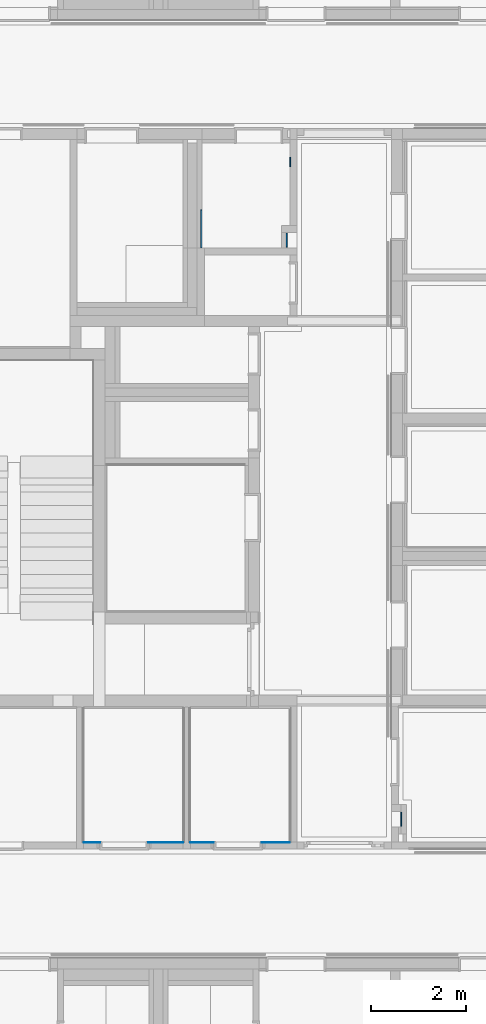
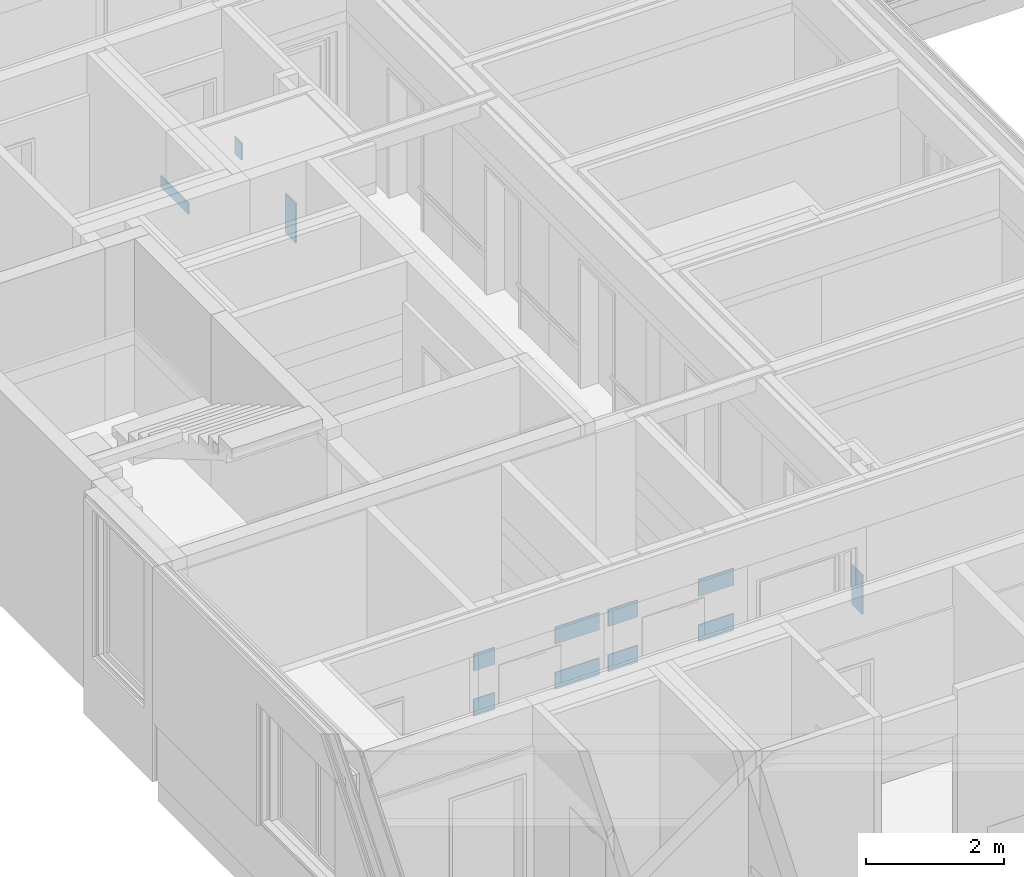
# One storey, part 152 of 207: 12 walls.
"""IFC4 building model written with IfcOpenShell, lengths in metres."""

from ifc_helpers import new_model, entity, si_unit, converted_unit, derived_unit, frame, origin, place, context, subcontext, project, spatial, faceted_brep, element, save


model = new_model("IFC4")

# Units and contexts
model_context = context("Model", 3, precision=1e-05, world=origin())
body_context = subcontext(model_context, "Body", "Model", "MODEL_VIEW")
ifc_project = project(units=[si_unit("LENGTHUNIT", "METRE"), si_unit("AREAUNIT", "SQUARE_METRE"), si_unit("VOLUMEUNIT", "CUBIC_METRE"), si_unit("MASSUNIT", "GRAM", prefix="KILO"), converted_unit("PLANEANGLEUNIT", "DEGREE", entity("IfcPlaneAngleMeasure", 0.0174532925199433), si_unit("PLANEANGLEUNIT", "RADIAN"), dimensions=[0, 0, 0, 0, 0, 0, 0]), derived_unit("THERMALTRANSMITTANCEUNIT", [(si_unit("POWERUNIT", "WATT"), 1), (si_unit("THERMODYNAMICTEMPERATUREUNIT", "KELVIN"), -1), (si_unit("LENGTHUNIT", "METRE"), -2)]), derived_unit("VOLUMETRICFLOWRATEUNIT", [(si_unit("LENGTHUNIT", "METRE"), 3), (converted_unit("TIMEUNIT", "hour", entity("IfcTimeMeasure", 3600.0), si_unit("TIMEUNIT", "SECOND"), dimensions=[0, 0, 1, 0, 0, 0, 0]), -1), (si_unit("LENGTHUNIT", "METRE"), -1)])], contexts=[model_context])

# Site, building, storey
site_placement = place(None, origin())
site = spatial("IfcSite", under=ifc_project, at=site_placement, Name="Psychiatrie Neubau Wunstorf", CompositionType="ELEMENT")
building_placement = place(site_placement, origin())
building = spatial("IfcBuilding", under=site, at=building_placement, Name="Neubau H2 Stationsgebäude", CompositionType="ELEMENT")
storey_placement = place(building_placement, frame((0.0, 0.0, -0.2)))
storey = spatial("IfcBuildingStorey", under=building, at=storey_placement, Name="H2 Ebene 0", CompositionType="ELEMENT", Elevation=-0.2)

# Walls
wall_1_placement = place(storey_placement, frame((5.89551612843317, 19.3150163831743, 2.0)))
element("IfcWall", 1, at=wall_1_placement, inside=storey, Name="WV 1.1", context=body_context, shape_type="Brep", body=[
    faceted_brep([(0.025, 0.8, 0.0), (0.0, 0.8, 0.0), (0.0, 0.0, 0.0), (0.025, 0.0, 0.0), (0.0, 0.8, 0.2), (0.025, 0.8, 0.2), (0.025, 0.0, 0.2), (0.0, 0.0, 0.2)], [[[0, 1, 2, 3]], [[4, 5, 6, 7]], [[1, 0, 5, 4]], [[2, 1, 4, 7]], [[3, 2, 7, 6]], [[0, 3, 6, 5]]], orient=[[False], [False], [False], [False], [False], [False]]),
])
wall_2_placement = place(storey_placement, frame((7.77499350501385, 21.029, 1.26)))
element("IfcWall", 2, at=wall_2_placement, inside=storey, Name="WV 1.1", context=body_context, shape_type="Brep", body=[
    faceted_brep([(0.025, 0.2, 0.0), (0.0, 0.2, 0.0), (0.0, 0.0, 0.0), (0.025, 0.0, 0.0), (0.0, 0.2, 0.3), (0.025, 0.2, 0.3), (0.025, 0.0, 0.3), (0.0, 0.0, 0.3)], [[[0, 1, 2, 3]], [[4, 5, 6, 7]], [[1, 0, 5, 4]], [[2, 1, 4, 7]], [[3, 2, 7, 6]], [[0, 3, 6, 5]]], orient=[[False], [False], [False], [False], [False], [False]]),
])
for number, where, name in (
    (3, (7.7, 19.3275163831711, 0.85), "WV 1.1"),
    (4, (10.1175000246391, 7.10249989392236, 0.85), "WV 1.1"),
):
    element("IfcWall", number, at=place(storey_placement, frame(where)), inside=storey, Name=name, context=body_context, shape_type="Brep", body=[
        faceted_brep([(0.025, 0.3, 0.0), (0.0, 0.3, 0.0), (0.0, 0.0, 0.0), (0.025, 0.0, 0.0), (0.0, 0.3, 0.7), (0.025, 0.3, 0.7), (0.025, 0.0, 0.7), (0.0, 0.0, 0.7)], [[[0, 1, 2, 3]], [[4, 5, 6, 7]], [[1, 0, 5, 4]], [[2, 1, 4, 7]], [[3, 2, 7, 6]], [[0, 3, 6, 5]]], orient=[[False], [False], [False], [False], [False], [False]]),
    ])
wall_3_placement = place(storey_placement, frame((3.425, 6.75699989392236, 1.6)))
element("IfcWall", 5, at=wall_3_placement, inside=storey, Name="WV 1.1", context=body_context, shape_type="Brep", body=[
    faceted_brep([(0.35, 0.0, 0.0), (0.35, 0.018, 0.0), (0.0, 0.018, 0.0), (0.0, 0.0, 0.0), (0.35, 0.018, 0.3), (0.35, 0.0, 0.3), (0.0, 0.0, 0.3), (0.0, 0.018, 0.3)], [[[0, 1, 2, 3]], [[4, 5, 6, 7]], [[1, 0, 5, 4]], [[2, 1, 4, 7]], [[3, 2, 7, 6]], [[0, 3, 6, 5]]], orient=[[False], [False], [False], [False], [False], [False]]),
])
wall_4_placement = place(storey_placement, frame((4.785, 6.75700025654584, 1.6)))
element("IfcWall", 6, at=wall_4_placement, inside=storey, Name="WV 1.1", context=body_context, shape_type="Brep", body=[
    faceted_brep([(0.74, 0.0, 0.0), (0.74, 0.018, 0.0), (0.0, 0.018, 0.0), (0.0, 0.0, 0.0), (0.74, 0.018, 0.3), (0.74, 0.0, 0.3), (0.0, 0.0, 0.3), (0.0, 0.018, 0.3)], [[[0, 1, 2, 3]], [[4, 5, 6, 7]], [[1, 0, 5, 4]], [[2, 1, 4, 7]], [[3, 2, 7, 6]], [[0, 3, 6, 5]]], orient=[[False], [False], [False], [False], [False], [False]]),
])
wall_5_placement = place(storey_placement, frame((5.675, 6.75699989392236, 1.6)))
element("IfcWall", 7, at=wall_5_placement, inside=storey, Name="WV 1.1", context=body_context, shape_type="Brep", body=[
    faceted_brep([(0.5, 0.0, 0.0), (0.5, 0.018, 0.0), (0.0, 0.018, 0.0), (0.0, 0.0, 0.0), (0.5, 0.018, 0.3), (0.5, 0.0, 0.3), (0.0, 0.0, 0.3), (0.0, 0.018, 0.3)], [[[0, 1, 2, 3]], [[4, 5, 6, 7]], [[1, 0, 5, 4]], [[2, 1, 4, 7]], [[3, 2, 7, 6]], [[0, 3, 6, 5]]], orient=[[False], [False], [False], [False], [False], [False]]),
])
for number, where, name in (
    (8, (7.185, 6.75700025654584, 1.6), "WV 1.1"),
    (9, (7.185, 6.75700025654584, 2.4), "WV 1.1"),
):
    element("IfcWall", number, at=place(storey_placement, frame(where)), inside=storey, Name=name, context=body_context, shape_type="Brep", body=[
        faceted_brep([(0.59, 0.0, 0.0), (0.59, 0.018, 0.0), (0.0, 0.018, 0.0), (0.0, 0.0, 0.0), (0.59, 0.018, 0.3), (0.59, 0.0, 0.3), (0.0, 0.0, 0.3), (0.0, 0.018, 0.3)], [[[0, 1, 2, 3]], [[4, 5, 6, 7]], [[1, 0, 5, 4]], [[2, 1, 4, 7]], [[3, 2, 7, 6]], [[0, 3, 6, 5]]], orient=[[False], [False], [False], [False], [False], [False]]),
    ])
wall_6_placement = place(storey_placement, frame((5.675, 6.75699989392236, 2.4)))
element("IfcWall", 10, at=wall_6_placement, inside=storey, Name="WV 1.1", context=body_context, shape_type="Brep", body=[
    faceted_brep([(0.5, 0.0, 0.0), (0.5, 0.018, 0.0), (0.0, 0.018, 0.0), (0.0, 0.0, 0.0), (0.5, 0.018, 0.3), (0.5, 0.0, 0.3), (0.0, 0.0, 0.3), (0.0, 0.018, 0.3)], [[[0, 1, 2, 3]], [[4, 5, 6, 7]], [[1, 0, 5, 4]], [[2, 1, 4, 7]], [[3, 2, 7, 6]], [[0, 3, 6, 5]]], orient=[[False], [False], [False], [False], [False], [False]]),
])
wall_7_placement = place(storey_placement, frame((4.785, 6.75700025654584, 2.4)))
element("IfcWall", 11, at=wall_7_placement, inside=storey, Name="WV 1.1", context=body_context, shape_type="Brep", body=[
    faceted_brep([(0.74, 0.0, 0.0), (0.74, 0.018, 0.0), (0.0, 0.018, 0.0), (0.0, 0.0, 0.0), (0.74, 0.018, 0.3), (0.74, 0.0, 0.3), (0.0, 0.0, 0.3), (0.0, 0.018, 0.3)], [[[0, 1, 2, 3]], [[4, 5, 6, 7]], [[1, 0, 5, 4]], [[2, 1, 4, 7]], [[3, 2, 7, 6]], [[0, 3, 6, 5]]], orient=[[False], [False], [False], [False], [False], [False]]),
])
wall_8_placement = place(storey_placement, frame((3.425, 6.75699989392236, 2.4)))
element("IfcWall", 12, at=wall_8_placement, inside=storey, Name="WV 1.1", context=body_context, shape_type="Brep", body=[
    faceted_brep([(0.35, 0.0, 0.0), (0.35, 0.018, 0.0), (0.0, 0.018, 0.0), (0.0, 0.0, 0.0), (0.35, 0.018, 0.3), (0.35, 0.0, 0.3), (0.0, 0.0, 0.3), (0.0, 0.018, 0.3)], [[[0, 1, 2, 3]], [[4, 5, 6, 7]], [[1, 0, 5, 4]], [[2, 1, 4, 7]], [[3, 2, 7, 6]], [[0, 3, 6, 5]]], orient=[[False], [False], [False], [False], [False], [False]]),
])

save(model, "model.ifc")
